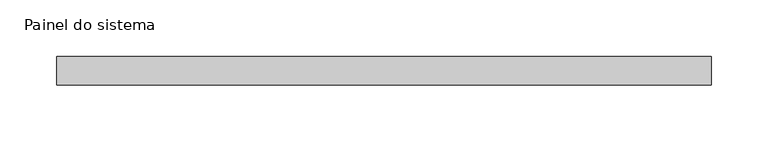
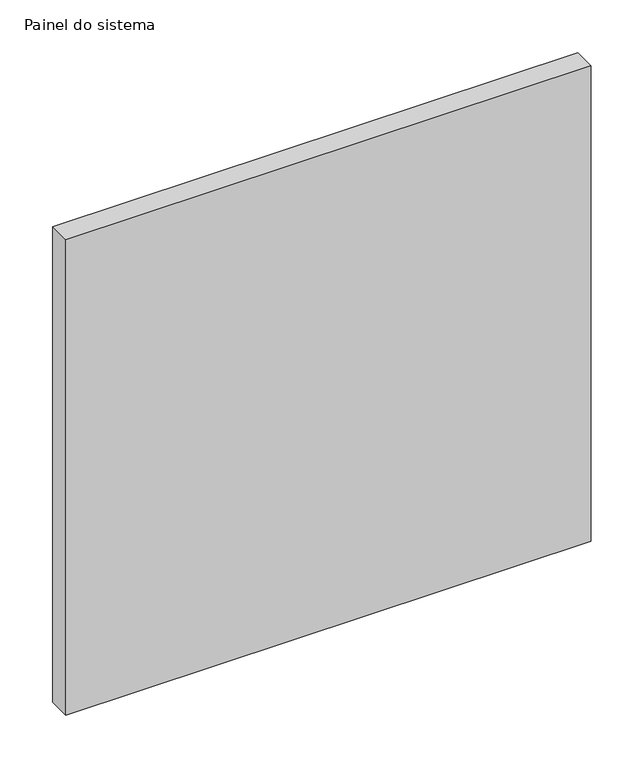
"""IFC4 building model written with IfcOpenShell, lengths in millimetres: plate geometry, Painel do sistema : Envidraçado."""

from ifc_helpers import new_model, si_unit, origin, origin_with_axes, place, context, project, spatial, polyline, outline, extrude, source, transform, mapped, element, save


def painel_do_sistema_e1ea6c28(model_context):
    return source(origin(), model_context, "Body", "SweptSolid", [
        extrude(outline(polyline([(287.5002289, 24.5), (-287.5002289, 24.5), (-287.5002289, 49.5), (287.5002289, 49.5), (287.5002289, 24.5)])), origin_with_axes(), (0.0, 0.0, 1.0), 550.0),
    ])


if __name__ == "__main__":
    model = new_model("IFC4")
    model_context = context("Model", 3, world=origin())
    ifc_project = project(units=[si_unit("LENGTHUNIT", "METRE", prefix="MILLI")], contexts=[model_context])
    site = spatial("IfcSite", under=ifc_project)
    building = spatial("IfcBuilding", under=site)
    placement = place(None, origin())
    painel_do_sistema_shape = painel_do_sistema_e1ea6c28(model_context)
    element("IfcPlate", 1, ObjectType="Painel do sistema : Envidraçado", at=placement, inside=building, context=model_context, shape_type="MappedRepresentation", body=[
        mapped(painel_do_sistema_shape, transform((0.0, 0.0, 0.0), x_axis=(1.0, 0.0, 0.0), y_axis=(0.0, 1.0, 0.0), z_axis=(0.0, 0.0, 1.0))),
    ])
    save(model, "model.ifc")
